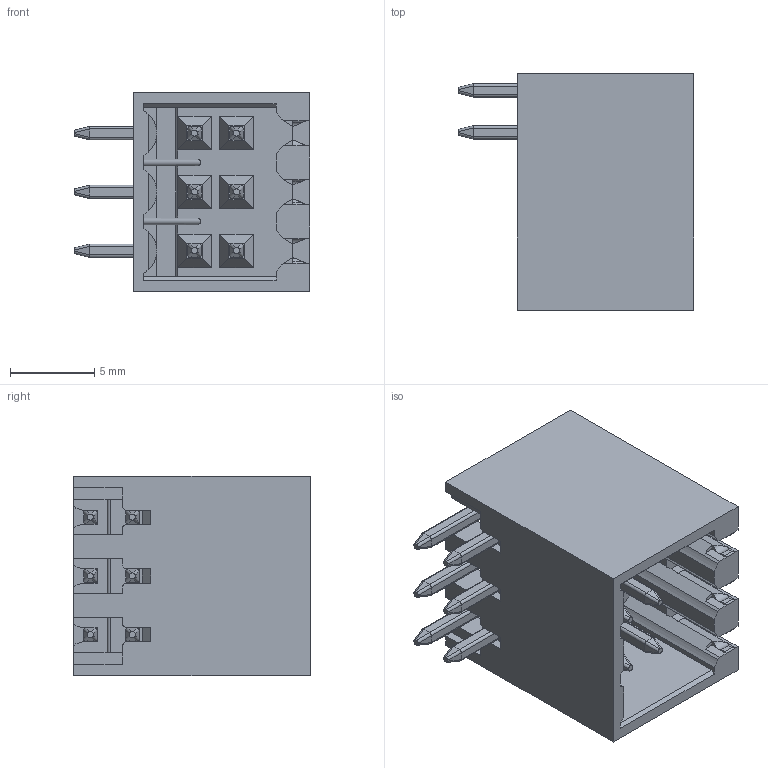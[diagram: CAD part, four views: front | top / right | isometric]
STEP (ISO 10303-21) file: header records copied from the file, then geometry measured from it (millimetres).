
FILE_DESCRIPTION((''),'2;1');
FILE_NAME('VX0611310000G','2021-05-13T',('renkang.li'),(''),'CREO PARAMETRIC BY PTC INC, 2016260','CREO PARAMETRIC BY PTC INC, 2016260','');
FILE_SCHEMA(('CONFIG_CONTROL_DESIGN'));
Length unit declared in the file: millimetre
Products named in the file (1): VX0611310000G
Bounding box: 14 x 14.1 x 11.9 mm (x, y, z)
Volume: 885 mm3; surface area: 1968.9 mm2
Topology: 1 solids, 13 shells, 826 faces, 2281 edges, 1498 vertices
Faces by surface type: plane 569, cylinder 161, torus 72, extrusion 24
Entity records: 28157 total; most frequent: CARTESIAN_POINT 7735, ORIENTED_EDGE 4562, DIRECTION 3717, EDGE_CURVE 2281, VECTOR 1585, LINE 1561, VERTEX_POINT 1498, AXIS2_PLACEMENT_3D 1066
